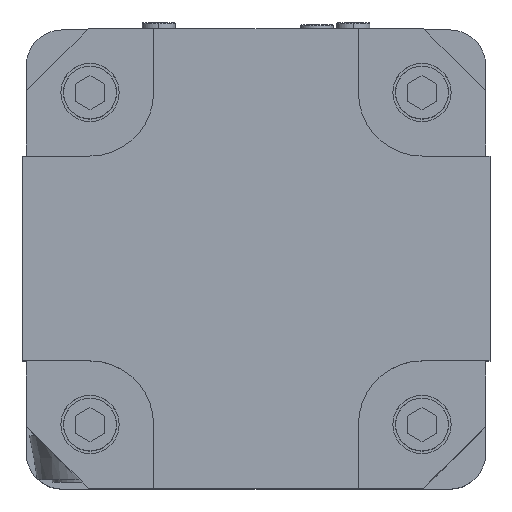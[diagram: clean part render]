
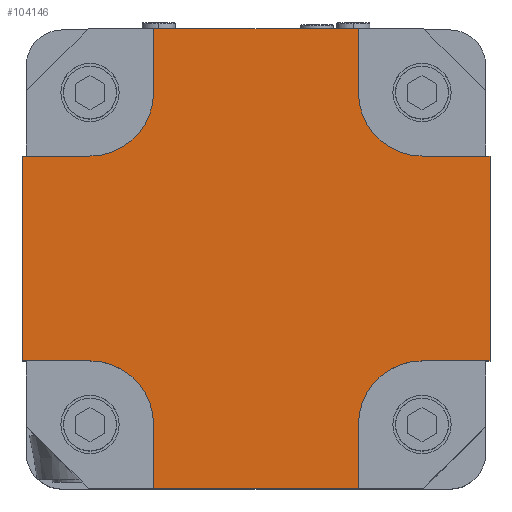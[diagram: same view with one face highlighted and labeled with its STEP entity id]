
A CAD part, top view. The second image highlights one B-rep face of the part: STEP entity #104146.
In plain terms, the highlighted planar face has unit normal (0, 0, 1).
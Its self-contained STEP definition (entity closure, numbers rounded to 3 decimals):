
#309 = ORIENTED_EDGE ( 'NONE', *, *, #56099, .F. ) ;
#696 = LINE ( 'NONE', #28692, #108018 ) ;
#3287 = EDGE_CURVE ( 'NONE', #125576, #100307, #36370, .T. ) ;
#4061 = VECTOR ( 'NONE', #94190, 1000. ) ;
#6689 = DIRECTION ( 'NONE',  ( 0., 0., 1. ) ) ;
#6708 = EDGE_CURVE ( 'NONE', #120019, #99428, #17828, .T. ) ;
#7191 = CARTESIAN_POINT ( 'NONE',  ( -58., 132.5, 111.5 ) ) ;
#8613 = EDGE_CURVE ( 'NONE', #21831, #105898, #75672, .T. ) ;
#9239 = CARTESIAN_POINT ( 'NONE',  ( 0., 0., 111.5 ) ) ;
#9368 = LINE ( 'NONE', #97728, #10817 ) ;
#10817 = VECTOR ( 'NONE', #126752, 1000. ) ;
#11152 = CARTESIAN_POINT ( 'NONE',  ( 58., -132.5, 111.5 ) ) ;
#11293 = ORIENTED_EDGE ( 'NONE', *, *, #6708, .F. ) ;
#13163 = CARTESIAN_POINT ( 'NONE',  ( -94., -58., 111.5 ) ) ;
#14652 = CARTESIAN_POINT ( 'NONE',  ( 58., 94., 111.5 ) ) ;
#14820 = VECTOR ( 'NONE', #47674, 1000. ) ;
#15001 = AXIS2_PLACEMENT_3D ( 'NONE', #91907, #53865, #120951 ) ;
#16520 = VERTEX_POINT ( 'NONE', #121599 ) ;
#17828 = LINE ( 'NONE', #7191, #66876 ) ;
#18171 = LINE ( 'NONE', #123368, #80916 ) ;
#19068 = PLANE ( 'NONE',  #23188 ) ;
#21059 = EDGE_CURVE ( 'NONE', #16520, #105898, #696, .T. ) ;
#21428 = DIRECTION ( 'NONE',  ( 0., -1., 0. ) ) ;
#21831 = VERTEX_POINT ( 'NONE', #113510 ) ;
#23188 = AXIS2_PLACEMENT_3D ( 'NONE', #9239, #38773, #58516 ) ;
#23307 = DIRECTION ( 'NONE',  ( 0., 0., -1. ) ) ;
#23739 = CARTESIAN_POINT ( 'NONE',  ( -94., -94., 111.5 ) ) ;
#24925 = ORIENTED_EDGE ( 'NONE', *, *, #95024, .T. ) ;
#28559 = ORIENTED_EDGE ( 'NONE', *, *, #8613, .F. ) ;
#28692 = CARTESIAN_POINT ( 'NONE',  ( 58., -132.5, 111.5 ) ) ;
#29759 = LINE ( 'NONE', #116089, #78793 ) ;
#32937 = DIRECTION ( 'NONE',  ( -1., 0., 0. ) ) ;
#35554 = CARTESIAN_POINT ( 'NONE',  ( -94., 58., 111.5 ) ) ;
#36370 = CIRCLE ( 'NONE', #65374, 36. ) ;
#37407 = DIRECTION ( 'NONE',  ( 0., 1., 0. ) ) ;
#37923 = LINE ( 'NONE', #55548, #47207 ) ;
#38773 = DIRECTION ( 'NONE',  ( 0., 0., -1. ) ) ;
#40207 = EDGE_CURVE ( 'NONE', #48471, #88653, #83267, .T. ) ;
#43139 = ORIENTED_EDGE ( 'NONE', *, *, #108840, .T. ) ;
#43594 = ORIENTED_EDGE ( 'NONE', *, *, #115559, .T. ) ;
#44292 = VERTEX_POINT ( 'NONE', #124663 ) ;
#44530 = VECTOR ( 'NONE', #69380, 1000. ) ;
#45677 = DIRECTION ( 'NONE',  ( 1., 0., 0. ) ) ;
#46993 = DIRECTION ( 'NONE',  ( 0., 1., 0. ) ) ;
#47188 = DIRECTION ( 'NONE',  ( 1., 0., 0. ) ) ;
#47207 = VECTOR ( 'NONE', #46993, 1000. ) ;
#47674 = DIRECTION ( 'NONE',  ( 0., -1., 0. ) ) ;
#48113 = CARTESIAN_POINT ( 'NONE',  ( -58., 132.5, 111.5 ) ) ;
#48471 = VERTEX_POINT ( 'NONE', #98262 ) ;
#48489 = VECTOR ( 'NONE', #54735, 1000. ) ;
#49759 = EDGE_CURVE ( 'NONE', #59552, #125576, #29759, .T. ) ;
#52849 = ORIENTED_EDGE ( 'NONE', *, *, #3287, .T. ) ;
#53865 = DIRECTION ( 'NONE',  ( 0., 0., -1. ) ) ;
#54735 = DIRECTION ( 'NONE',  ( 0., -1., 0. ) ) ;
#55548 = CARTESIAN_POINT ( 'NONE',  ( -58., -132.5, 111.5 ) ) ;
#55840 = ORIENTED_EDGE ( 'NONE', *, *, #40207, .T. ) ;
#56099 = EDGE_CURVE ( 'NONE', #81981, #100307, #37923, .T. ) ;
#56145 = ORIENTED_EDGE ( 'NONE', *, *, #119932, .T. ) ;
#57807 = LINE ( 'NONE', #48113, #14820 ) ;
#58207 = AXIS2_PLACEMENT_3D ( 'NONE', #80081, #89896, #99705 ) ;
#58516 = DIRECTION ( 'NONE',  ( -1., 0., 0. ) ) ;
#58623 = CARTESIAN_POINT ( 'NONE',  ( -94., 58., 111.5 ) ) ;
#58828 = VERTEX_POINT ( 'NONE', #100720 ) ;
#59552 = VERTEX_POINT ( 'NONE', #125361 ) ;
#60420 = ORIENTED_EDGE ( 'NONE', *, *, #49759, .T. ) ;
#61754 = ORIENTED_EDGE ( 'NONE', *, *, #63369, .F. ) ;
#62075 = EDGE_CURVE ( 'NONE', #16520, #81981, #67511, .T. ) ;
#63369 = EDGE_CURVE ( 'NONE', #58828, #21831, #120809, .T. ) ;
#63385 = EDGE_CURVE ( 'NONE', #99428, #88653, #94854, .T. ) ;
#64902 = EDGE_CURVE ( 'NONE', #44292, #110661, #65437, .T. ) ;
#65374 = AXIS2_PLACEMENT_3D ( 'NONE', #23739, #23307, #92237 ) ;
#65437 = LINE ( 'NONE', #35554, #4061 ) ;
#66876 = VECTOR ( 'NONE', #47188, 1000. ) ;
#66949 = CARTESIAN_POINT ( 'NONE',  ( -58., 94., 111.5 ) ) ;
#67511 = LINE ( 'NONE', #11152, #44530 ) ;
#67882 = CARTESIAN_POINT ( 'NONE',  ( 130., 58., 111.5 ) ) ;
#69192 = ORIENTED_EDGE ( 'NONE', *, *, #63385, .F. ) ;
#69258 = CARTESIAN_POINT ( 'NONE',  ( 58., -94., 111.5 ) ) ;
#69380 = DIRECTION ( 'NONE',  ( -1., 0., 0. ) ) ;
#75672 = CIRCLE ( 'NONE', #58207, 36. ) ;
#77514 = ORIENTED_EDGE ( 'NONE', *, *, #62075, .F. ) ;
#78696 = FACE_OUTER_BOUND ( 'NONE', #114846, .T. ) ;
#78730 = ORIENTED_EDGE ( 'NONE', *, *, #21059, .T. ) ;
#78793 = VECTOR ( 'NONE', #115675, 1000. ) ;
#80081 = CARTESIAN_POINT ( 'NONE',  ( 94., -94., 111.5 ) ) ;
#80093 = CARTESIAN_POINT ( 'NONE',  ( 94., -58., 111.5 ) ) ;
#80916 = VECTOR ( 'NONE', #37407, 1000. ) ;
#81981 = VERTEX_POINT ( 'NONE', #94221 ) ;
#83267 = CIRCLE ( 'NONE', #15001, 36. ) ;
#83801 = CARTESIAN_POINT ( 'NONE',  ( -58., 132.5, 111.5 ) ) ;
#84176 = VERTEX_POINT ( 'NONE', #66949 ) ;
#84250 = CARTESIAN_POINT ( 'NONE',  ( -58., -94., 111.5 ) ) ;
#84957 = CARTESIAN_POINT ( 'NONE',  ( 58., 132.5, 111.5 ) ) ;
#88273 = EDGE_CURVE ( 'NONE', #110661, #84176, #93971, .T. ) ;
#88413 = VERTEX_POINT ( 'NONE', #67882 ) ;
#88653 = VERTEX_POINT ( 'NONE', #14652 ) ;
#89896 = DIRECTION ( 'NONE',  ( 0., 0., 1. ) ) ;
#91907 = CARTESIAN_POINT ( 'NONE',  ( 94., 94., 111.5 ) ) ;
#92237 = DIRECTION ( 'NONE',  ( 1., 0., 0. ) ) ;
#92614 = ORIENTED_EDGE ( 'NONE', *, *, #64902, .F. ) ;
#93968 = CARTESIAN_POINT ( 'NONE',  ( -94., 94., 111.5 ) ) ;
#93971 = CIRCLE ( 'NONE', #123804, 36. ) ;
#94190 = DIRECTION ( 'NONE',  ( 1., 0., 0. ) ) ;
#94221 = CARTESIAN_POINT ( 'NONE',  ( -58., -132.5, 111.5 ) ) ;
#94854 = LINE ( 'NONE', #100117, #99361 ) ;
#95024 = EDGE_CURVE ( 'NONE', #88413, #48471, #9368, .T. ) ;
#97728 = CARTESIAN_POINT ( 'NONE',  ( 94., 58., 111.5 ) ) ;
#98262 = CARTESIAN_POINT ( 'NONE',  ( 94., 58., 111.5 ) ) ;
#99361 = VECTOR ( 'NONE', #21428, 1000. ) ;
#99428 = VERTEX_POINT ( 'NONE', #84957 ) ;
#99705 = DIRECTION ( 'NONE',  ( -1., 0., 0. ) ) ;
#100117 = CARTESIAN_POINT ( 'NONE',  ( 58., 132.5, 111.5 ) ) ;
#100307 = VERTEX_POINT ( 'NONE', #84250 ) ;
#100720 = CARTESIAN_POINT ( 'NONE',  ( 130., -58., 111.5 ) ) ;
#101728 = CARTESIAN_POINT ( 'NONE',  ( -130., -130., 111.5 ) ) ;
#102397 = VECTOR ( 'NONE', #32937, 1000. ) ;
#104146 = ADVANCED_FACE ( 'NONE', ( #78696 ), #19068, .F. ) ;
#105898 = VERTEX_POINT ( 'NONE', #69258 ) ;
#108018 = VECTOR ( 'NONE', #126604, 1000. ) ;
#108840 = EDGE_CURVE ( 'NONE', #58828, #88413, #18171, .T. ) ;
#110661 = VERTEX_POINT ( 'NONE', #58623 ) ;
#113510 = CARTESIAN_POINT ( 'NONE',  ( 94., -58., 111.5 ) ) ;
#114846 = EDGE_LOOP ( 'NONE', ( #78730, #28559, #61754, #43139, #24925, #55840, #69192, #11293, #43594, #121079, #92614, #56145, #60420, #52849, #309, #77514 ) ) ;
#115559 = EDGE_CURVE ( 'NONE', #120019, #84176, #57807, .T. ) ;
#115675 = DIRECTION ( 'NONE',  ( 1., 0., 0. ) ) ;
#116089 = CARTESIAN_POINT ( 'NONE',  ( -94., -58., 111.5 ) ) ;
#119932 = EDGE_CURVE ( 'NONE', #44292, #59552, #126400, .T. ) ;
#120019 = VERTEX_POINT ( 'NONE', #83801 ) ;
#120809 = LINE ( 'NONE', #80093, #102397 ) ;
#120951 = DIRECTION ( 'NONE',  ( -1., 0., 0. ) ) ;
#121079 = ORIENTED_EDGE ( 'NONE', *, *, #88273, .F. ) ;
#121599 = CARTESIAN_POINT ( 'NONE',  ( 58., -132.5, 111.5 ) ) ;
#123368 = CARTESIAN_POINT ( 'NONE',  ( 130., -130., 111.5 ) ) ;
#123804 = AXIS2_PLACEMENT_3D ( 'NONE', #93968, #6689, #45677 ) ;
#124663 = CARTESIAN_POINT ( 'NONE',  ( -130., 58., 111.5 ) ) ;
#125361 = CARTESIAN_POINT ( 'NONE',  ( -130., -58., 111.5 ) ) ;
#125576 = VERTEX_POINT ( 'NONE', #13163 ) ;
#126400 = LINE ( 'NONE', #101728, #48489 ) ;
#126604 = DIRECTION ( 'NONE',  ( 0., 1., 0. ) ) ;
#126752 = DIRECTION ( 'NONE',  ( -1., 0., 0. ) ) ;
